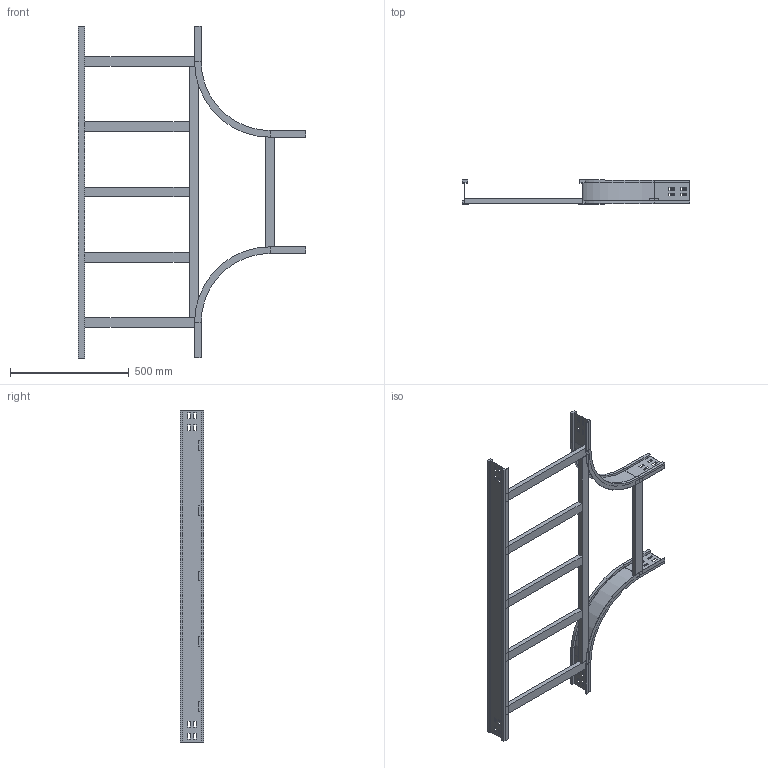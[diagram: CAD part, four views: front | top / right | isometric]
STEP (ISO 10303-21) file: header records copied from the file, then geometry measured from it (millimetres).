
FILE_DESCRIPTION (( 'STEP AP214' ), '1' );
FILE_NAME ('15S3D500.step', '2025-02-21T16:12:30', ( '' ), ( '' ), 'SwSTEP 2.0', 'SolidWorks 2023', '' );
FILE_SCHEMA (( 'AUTOMOTIVE_DESIGN' ));
Length unit declared in the file: millimetre
Products named in the file (6): TRAVERSINO_500; TRAVERSINO_LONG._R300+500; LONGH.RETT_H100_R300+500; 15S3D500; LONGH.INTERNO 90°_H100_R300; TRAVERSINO_INTERMEDIO_R300+500
Assembly tree (10 placements, depth 2):
  15S3D500
    LONGH.INTERNO 90°_H100_R300  x2
    LONGH.RETT_H100_R300+500
    TRAVERSINO_500  x3
    TRAVERSINO_LONG._R300+500
    TRAVERSINO_INTERMEDIO_R300+500  x3
Bounding box: 959 x 100 x 1400 mm (x, y, z)
Volume: 4728637.1 mm3; surface area: 1355863.1 mm2
Topology: 10 solids, 10 shells, 228 faces, 576 edges, 368 vertices
Faces by surface type: plane 216, cylinder 12
Entity records: 4283 total; most frequent: CARTESIAN_POINT 719, ORIENTED_EDGE 696, DIRECTION 654, EDGE_CURVE 348, VECTOR 336, LINE 336, VERTEX_POINT 224, EDGE_LOOP 166
